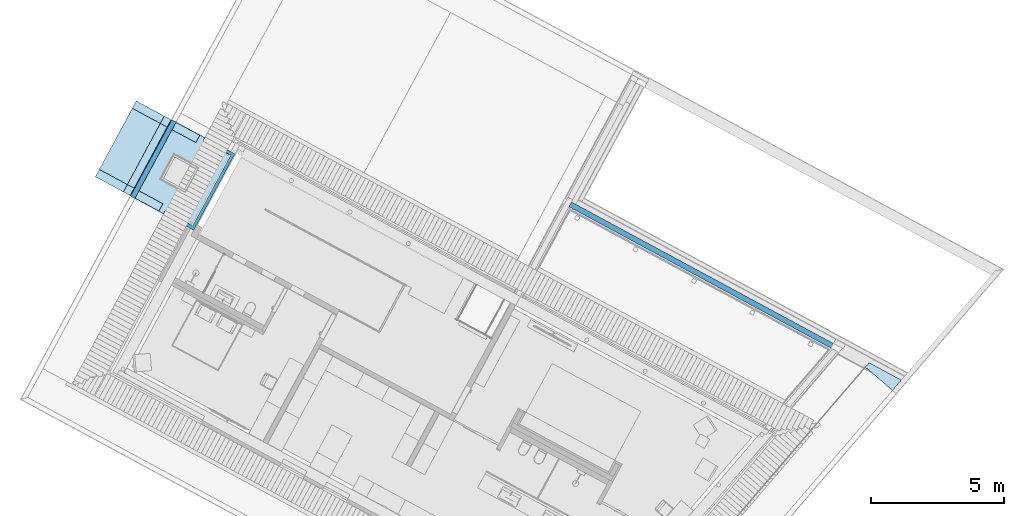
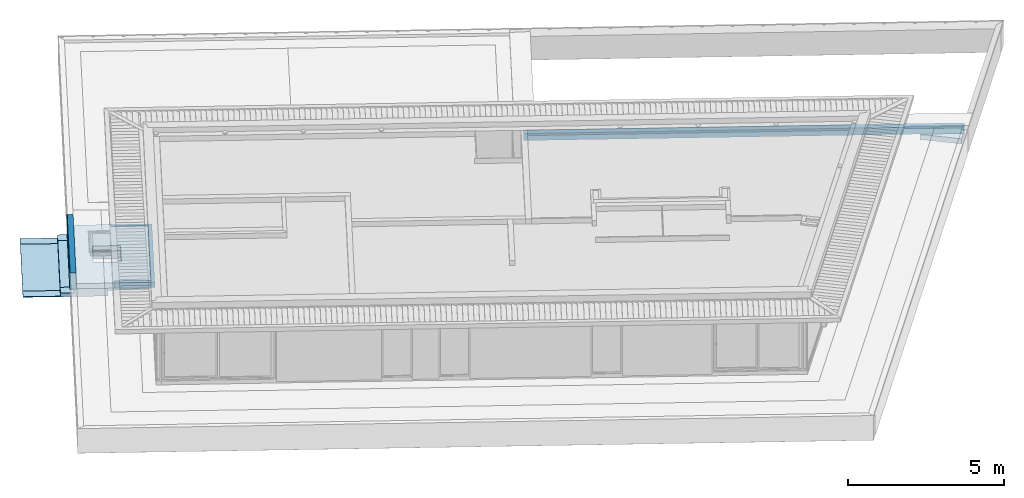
# One storey, part 3 of 48: 8 slabs.
"""IFC2X3 building model written with IfcOpenShell, lengths in metres."""

from ifc_helpers import new_model, entity, si_unit, converted_unit, derived_unit, money_unit, direction, frame, origin_with_axes, place, context, subcontext, project, spatial, faceted_brep, material, material_list, type_object, element, save


model = new_model("IFC2X3")

# Units and contexts
model_context = context("Model", 3, precision=1e-05, world=origin_with_axes(), true_north=direction((0.0, 1.0)))
body_context = subcontext(model_context, "Body", "Model", "MODEL_VIEW")
ifc_project = project(units=[si_unit("LENGTHUNIT", "METRE"), si_unit("AREAUNIT", "SQUARE_METRE"), si_unit("VOLUMEUNIT", "CUBIC_METRE"), converted_unit("PLANEANGLEUNIT", "DEGREE", entity("IfcPlaneAngleMeasure", 0.0174532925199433), si_unit("PLANEANGLEUNIT", "RADIAN"), dimensions=[0, 0, 0, 0, 0, 0, 0]), money_unit("EUR"), converted_unit("TIMEUNIT", "Year", entity("IfcTimeMeasure", 31556926.0), si_unit("TIMEUNIT", "SECOND"), dimensions=[0, 0, 1, 0, 0, 0, 0]), si_unit("MASSUNIT", "GRAM", prefix="KILO"), si_unit("THERMODYNAMICTEMPERATUREUNIT", "DEGREE_CELSIUS"), si_unit("LUMINOUSINTENSITYUNIT", "LUMEN"), si_unit("ENERGYUNIT", "JOULE", prefix="MEGA"), derived_unit("THERMALCONDUCTANCEUNIT", [(si_unit("POWERUNIT", "WATT"), 1), (si_unit("LENGTHUNIT", "METRE"), -1), (si_unit("THERMODYNAMICTEMPERATUREUNIT", "KELVIN"), -1)]), derived_unit("SPECIFICHEATCAPACITYUNIT", [(si_unit("ENERGYUNIT", "JOULE"), 1), (si_unit("MASSUNIT", "GRAM", prefix="KILO"), -1), (si_unit("THERMODYNAMICTEMPERATUREUNIT", "KELVIN"), -1)]), derived_unit("MASSDENSITYUNIT", [(si_unit("MASSUNIT", "GRAM", prefix="KILO"), 1), (si_unit("VOLUMEUNIT", "CUBIC_METRE"), -1)])], contexts=[model_context])

# Site, building, storey
site_placement = place(None, frame((-3.949935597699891, 1.740105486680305, 0.0), z_axis=(0.0, 0.0, 1.0), x_axis=(0.8799804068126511, -0.475009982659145, 0.0)))
site = spatial("IfcSite", under=ifc_project, at=site_placement, Name="Gelände", CompositionType="ELEMENT")
building_placement = place(site_placement, origin_with_axes())
building = spatial("IfcBuilding", under=site, at=building_placement, Name="Gebäude", CompositionType="ELEMENT")
storey_placement = place(building_placement, frame((0.0, 0.0, 4.55), z_axis=(0.0, 0.0, 1.0), x_axis=(1.0, 0.0, 0.0)))
storey = spatial("IfcBuildingStorey", under=building, at=storey_placement, Name="Staffelgeschoss", CompositionType="ELEMENT", Elevation=4.55)

# Slabs
ifc_material_1 = material(Name="_SIWH - Beton, Stahlbeton")
slab_type_1 = type_object("IfcSlabType", Name="_SIWH - Beton, Stahlbeton 200", PredefinedType="NOTDEFINED")
slab_1_placement = place(storey_placement, frame((17.36747696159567, 14.88304610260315, -0.3999999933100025), z_axis=(0.0, 0.0, 1.0), x_axis=(0.9999999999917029, -4.073605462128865e-06, 0.0)))
element("IfcSlab", 1, at=slab_1_placement, inside=storey, type_object=slab_type_1, material=ifc_material_1, Name="Wand-026", PredefinedType="NOTDEFINED", context=body_context, shape_type="Brep", body=[
    faceted_brep([(14.07253143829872, 0.0, 0.2749999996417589), (14.11621227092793, 0.2000000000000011, 0.2749999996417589), (-8.147210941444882e-07, 0.1999999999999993, 0.2749999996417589), (0.0, 0.0, 0.2749999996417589), (11.22181562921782, 0.0, 0.2749999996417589), (11.22182561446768, 4.571329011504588e-05, 0.2749999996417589), (11.2832870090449, 4.596365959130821e-05, 0.2749999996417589), (11.28327697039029, 0.0, 0.2749999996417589), (11.48799144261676, 0.0, 0.2749999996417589), (11.48800166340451, 4.679758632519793e-05, 0.2749999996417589), (11.53647099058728, 4.699503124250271e-05, 0.2749999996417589), (11.53647099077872, 0.0, 0.2749999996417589), (14.1162122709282, 0.2000000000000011, 0.0), (14.07253143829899, 0.0, 0.0), (-8.147210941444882e-07, 0.1999999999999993, 0.0), (0.0, 0.0, 0.0), (11.22181562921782, 0.0, 0.0), (11.22182561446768, 4.571329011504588e-05, 0.0), (11.2832870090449, 4.596365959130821e-05, 0.0), (11.28327697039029, 0.0, 0.0), (11.48799144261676, 0.0, 0.0), (11.48800166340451, 4.679758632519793e-05, 0.0), (11.53647099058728, 4.699503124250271e-05, 0.0), (11.53647099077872, 0.0, 0.0)], [[[0, 1, 2, 3, 4, 5, 6, 7, 8, 9, 10, 11]], [[12, 1, 0, 13]], [[1, 12, 14, 2]], [[3, 2, 14, 15]], [[3, 15, 16, 4]], [[16, 17, 5, 4]], [[17, 18, 6, 5]], [[18, 19, 7, 6]], [[7, 19, 20, 8]], [[20, 21, 9, 8]], [[21, 22, 10, 9]], [[22, 23, 11, 10]], [[13, 0, 11, 23]], [[12, 13, 23, 22, 21, 20, 19, 18, 17, 16, 15, 14]]]),
])
slab_2_placement = place(storey_placement, frame((2.837485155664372, 7.393058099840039, -0.4500000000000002), z_axis=(0.0, 0.0, 1.0), x_axis=(1.0, 0.0, 0.0)))
element("IfcSlab", 2, at=slab_2_placement, inside=storey, type_object=slab_type_1, material=ifc_material_1, Name="Decke020", PredefinedType="NOTDEFINED", context=body_context, shape_type="Brep", body=[
    faceted_brep([(1.224999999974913, 0.1199761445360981, -0.2000000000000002), (1.224999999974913, 0.0, -0.2000000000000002), (0.0, 0.0, -0.2000000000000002), (4.762797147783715e-06, 3.264741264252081, -0.2000000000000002), (1.225004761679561, 3.264741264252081, -0.2000000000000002), (1.225004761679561, 3.144741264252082, -0.2000000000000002), (2.399997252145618, 3.144741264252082, -0.2000000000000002), (2.399997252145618, 0.1199761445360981, -0.2000000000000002), (0.5850047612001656, 1.182359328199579, -0.2000000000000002), (1.485004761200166, 1.182359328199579, -0.2000000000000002), (1.485004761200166, 2.082359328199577, -0.2000000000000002), (0.5850047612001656, 2.082359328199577, -0.2000000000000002), (1.224999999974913, 0.1199761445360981, 0.0), (1.224999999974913, 0.0, 0.0), (0.0, 0.0, 0.0), (4.762797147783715e-06, 3.264741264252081, 0.0), (1.225004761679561, 3.264741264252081, 0.0), (1.225004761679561, 3.144741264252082, 0.0), (2.399997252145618, 3.144741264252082, 0.0), (2.399997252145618, 0.1199761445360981, 0.0), (0.5850047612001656, 1.182359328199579, 0.0), (1.485004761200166, 1.182359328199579, 0.0), (1.485004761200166, 2.082359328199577, 0.0), (0.5850047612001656, 2.082359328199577, 0.0)], [[[0, 1, 2, 3, 4, 5, 6, 7], [8, 9, 10, 11]], [[12, 13, 1, 0]], [[13, 14, 2, 1]], [[14, 15, 3, 2]], [[15, 16, 4, 3]], [[16, 17, 5, 4]], [[17, 18, 6, 5]], [[18, 19, 7, 6]], [[19, 12, 0, 7]], [[20, 21, 9, 8]], [[21, 22, 10, 9]], [[22, 23, 11, 10]], [[23, 20, 8, 11]], [[16, 15, 14, 13, 12, 19, 18, 17], [20, 23, 22, 21]]]),
])
slab_3_placement = place(storey_placement, frame((30.1069965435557, 15.08304610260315, -0.3999999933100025), z_axis=(0.0, 0.0, 1.0), x_axis=(1.0, 0.0, 0.0)))
element("IfcSlab", 3, at=slab_3_placement, inside=storey, type_object=slab_type_1, material=ifc_material_1, Name="Decke-004", PredefinedType="NOTDEFINED", context=body_context, shape_type="Brep", body=[
    faceted_brep([(-0.05241793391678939, -0.2399998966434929, -0.2000000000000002), (-0.05241793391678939, -0.2399998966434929, 0.0), (0.0, 0.0, 0.0), (0.0, 0.0, -0.2000000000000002), (0.07041087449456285, -0.2399998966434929, -0.2000000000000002), (0.07041087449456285, -0.2399998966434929, 0.0), (1.267198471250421, -0.5013886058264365, 0.0), (1.376706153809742, 0.0, 0.0), (1.376706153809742, 0.0, -0.2000000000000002), (1.267198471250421, -0.5013886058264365, -0.2000000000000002)], [[[0, 1, 2, 3]], [[4, 5, 1, 0]], [[5, 6, 7, 2, 1]], [[3, 2, 7, 8]], [[9, 4, 0, 3, 8]], [[9, 6, 5, 4]], [[8, 7, 6, 9]]]),
])
ifc_material_2 = material(Name="_SIWH - Abgehängte Decke Arkade")
ifc_material_3 = material(Name="_SIWH - Holz, Bauholz")
ifc_material_4 = material(Name="_SIWH - Luftschicht vertikal")
ifc_material_5 = material(Name="_SIWH - Dämmung, weich Mineralwolle")
ifc_material_list_1 = material_list([ifc_material_2, ifc_material_3, ifc_material_2, ifc_material_2, ifc_material_4, ifc_material_5, ifc_material_3, ifc_material_4])
slab_type_2 = type_object("IfcSlabType", Name="_SIWH - Vordach Eingang 2 2720 x 310", PredefinedType="NOTDEFINED")
slab_4_placement = place(storey_placement, frame((2.637489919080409, 7.403034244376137, -0.6499999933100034), z_axis=(0.0, 0.0, 1.0), x_axis=(0.0, 1.0, 0.0)))
element("IfcSlab", 4, at=slab_4_placement, inside=storey, type_object=slab_type_2, material=ifc_material_list_1, Name="Wand-024", PredefinedType="NOTDEFINED", context=body_context, shape_type="Brep", body=[
    faceted_brep([(0.3149999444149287, 0.3000000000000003, -0.2849999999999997), (0.3149999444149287, 0.2750000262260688, -0.2849999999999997), (0.0, 0.2750000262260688, -0.2849999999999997), (0.0, 0.3000000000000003, -0.2849999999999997), (0.3149999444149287, 0.3000000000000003, -0.1599999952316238), (0.3149999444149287, -0.1350000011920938, -0.1599999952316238), (0.3149999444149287, -1.22, -0.1599999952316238), (0.3149999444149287, -1.22, -0.1849999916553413), (0.3149999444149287, 0.2750000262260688, -0.1849999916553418), (0.0, 0.2750000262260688, -0.1849999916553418), (0.0, -1.22, -0.1849999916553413), (0.0, -1.22, -0.1599999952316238), (0.0, -0.1350000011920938, -0.1599999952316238), (0.0, 0.3000000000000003, -0.1599999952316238)], [[[0, 1, 2, 3]], [[0, 4, 5, 6, 7, 8, 1]], [[1, 8, 9, 2]], [[3, 2, 9, 10, 11, 12, 13]], [[4, 0, 3, 13]], [[5, 4, 13, 12]], [[6, 5, 12, 11]], [[7, 6, 11, 10]], [[8, 7, 10, 9]]]),
    faceted_brep([(0.3149999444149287, 0.1750000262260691, -0.185000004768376), (0.3149999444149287, 0.275000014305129, -0.185000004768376), (0.0, 0.275000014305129, -0.185000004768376), (0.0, 0.1750000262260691, -0.185000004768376), (0.3149999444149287, 0.1750000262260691, -0.2849999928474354), (0.3149999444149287, 0.275000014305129, -0.2849999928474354), (0.0, 0.275000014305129, -0.2849999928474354), (0.0, 0.1750000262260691, -0.2849999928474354)], [[[0, 1, 2, 3]], [[0, 4, 5, 1]], [[1, 5, 6, 2]], [[3, 2, 6, 7]], [[4, 0, 3, 7]], [[5, 4, 7, 6]]]),
    faceted_brep([(0.3149999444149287, 1.5, -0.3100000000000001), (0.3149999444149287, -1.22, -0.3099999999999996), (0.0, -1.22, -0.3099999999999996), (0.0, 1.5, -0.3100000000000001), (0.3149999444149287, 1.5, -0.2849999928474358), (0.3149999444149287, 0.2999999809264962, -0.2849999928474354), (0.3149999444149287, -1.22, -0.2849999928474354), (0.0, -1.22, -0.2849999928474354), (0.0, 0.2999999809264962, -0.2849999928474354), (0.0, 1.5, -0.2849999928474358)], [[[0, 1, 2, 3]], [[0, 4, 5, 6, 1]], [[1, 6, 7, 2]], [[3, 2, 7, 8, 9]], [[4, 0, 3, 9]], [[5, 4, 9, 8]], [[6, 5, 8, 7]]]),
    faceted_brep([(0.3149999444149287, 0.0, 0.0), (0.3149999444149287, 0.0, -0.02499999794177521), (0.0, 0.0, -0.02499999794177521), (0.0, 0.0, 0.0), (0.3149999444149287, -0.1599999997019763, 0.0), (0.3149999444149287, -0.1599999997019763, -0.1600000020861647), (0.3149999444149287, -0.1349999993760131, -0.1600000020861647), (0.3149999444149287, -0.1349999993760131, -0.02499999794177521), (0.0, -0.1349999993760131, -0.02499999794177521), (0.0, -0.1349999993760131, -0.1600000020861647), (0.0, -0.1599999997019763, -0.1600000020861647), (0.0, -0.1599999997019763, 0.0)], [[[0, 1, 2, 3]], [[0, 4, 5, 6, 7, 1]], [[1, 7, 8, 2]], [[3, 2, 8, 9, 10, 11]], [[4, 0, 3, 11]], [[5, 4, 11, 10]], [[6, 5, 10, 9]], [[7, 6, 9, 8]]]),
    faceted_brep([(0.3149999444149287, -0.6849999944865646, -0.1850000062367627), (0.3149999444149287, 0.1750000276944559, -0.1850000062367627), (0.0, 0.1750000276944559, -0.1850000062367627), (0.0, -0.6849999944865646, -0.1850000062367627), (0.3149999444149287, -0.6849999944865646, -0.2849999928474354), (0.3149999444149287, 0.1750000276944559, -0.2849999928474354), (0.0, 0.1750000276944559, -0.2849999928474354), (0.0, -0.6849999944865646, -0.2849999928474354)], [[[0, 1, 2, 3]], [[0, 4, 5, 1]], [[1, 5, 6, 2]], [[3, 2, 6, 7]], [[4, 0, 3, 7]], [[5, 4, 7, 6]]]),
    faceted_brep([(0.3149999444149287, -0.1599999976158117, -0.1599999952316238), (0.3149999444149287, -1.22, -0.1599999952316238), (0.0, -1.22, -0.1599999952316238), (0.0, -0.1599999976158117, -0.1599999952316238), (0.3149999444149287, -0.1599999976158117, 0.0), (0.3149999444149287, -1.22, 0.0), (0.0, -1.22, 0.0), (0.0, -0.1599999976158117, 0.0)], [[[0, 1, 2, 3]], [[0, 4, 5, 1]], [[1, 5, 6, 2]], [[3, 2, 6, 7]], [[4, 0, 3, 7]], [[5, 4, 7, 6]]]),
    faceted_brep([(0.3149999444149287, -0.6849999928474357, -0.2849999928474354), (0.3149999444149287, -0.7849999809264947, -0.2849999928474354), (0.0, -0.7849999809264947, -0.2849999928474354), (0.0, -0.6849999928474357, -0.2849999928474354), (0.3149999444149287, -0.6849999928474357, -0.185000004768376), (0.3149999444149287, -0.7849999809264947, -0.185000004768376), (0.0, -0.7849999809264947, -0.185000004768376), (0.0, -0.6849999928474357, -0.185000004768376)], [[[0, 1, 2, 3]], [[0, 4, 5, 1]], [[1, 5, 6, 2]], [[3, 2, 6, 7]], [[4, 0, 3, 7]], [[5, 4, 7, 6]]]),
    faceted_brep([(0.3149999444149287, -0.7849999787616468, -0.2849999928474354), (0.3149999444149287, -1.22, -0.2849999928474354), (0.0, -1.22, -0.2849999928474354), (0.0, -0.7849999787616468, -0.2849999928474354), (0.3149999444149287, -0.7849999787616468, -0.1850000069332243), (0.3149999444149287, -1.22, -0.1850000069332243), (0.0, -1.22, -0.1850000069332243), (0.0, -0.7849999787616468, -0.1850000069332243)], [[[0, 1, 2, 3]], [[0, 4, 5, 1]], [[1, 5, 6, 2]], [[3, 2, 6, 7]], [[4, 0, 3, 7]], [[5, 4, 7, 6]]]),
])
slab_5_placement = place(storey_placement, frame((2.637489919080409, 10.33280025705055, -0.6499999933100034), z_axis=(0.0, 0.0, 1.0), x_axis=(0.0, 1.0, 0.0)))
element("IfcSlab", 5, at=slab_5_placement, inside=storey, type_object=slab_type_2, material=ifc_material_list_1, Name="Wand-024", PredefinedType="NOTDEFINED", context=body_context, shape_type="Brep", body=[
    faceted_brep([(0.3149999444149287, 0.3000000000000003, -0.2849999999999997), (0.3149999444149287, 0.2750000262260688, -0.2849999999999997), (0.0, 0.2750000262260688, -0.2849999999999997), (0.0, 0.3000000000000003, -0.2849999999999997), (0.3149999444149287, 0.3000000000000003, -0.1599999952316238), (0.3149999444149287, -0.1350000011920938, -0.1599999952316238), (0.3149999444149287, -1.22, -0.1599999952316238), (0.3149999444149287, -1.22, -0.1849999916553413), (0.3149999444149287, 0.2750000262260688, -0.1849999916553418), (0.0, 0.2750000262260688, -0.1849999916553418), (0.0, -1.22, -0.1849999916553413), (0.0, -1.22, -0.1599999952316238), (0.0, -0.1350000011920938, -0.1599999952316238), (0.0, 0.3000000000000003, -0.1599999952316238)], [[[0, 1, 2, 3]], [[0, 4, 5, 6, 7, 8, 1]], [[1, 8, 9, 2]], [[3, 2, 9, 10, 11, 12, 13]], [[4, 0, 3, 13]], [[5, 4, 13, 12]], [[6, 5, 12, 11]], [[7, 6, 11, 10]], [[8, 7, 10, 9]]]),
    faceted_brep([(0.3149999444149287, 0.1750000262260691, -0.185000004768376), (0.3149999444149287, 0.275000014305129, -0.185000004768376), (0.0, 0.275000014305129, -0.185000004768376), (0.0, 0.1750000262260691, -0.185000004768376), (0.3149999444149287, 0.1750000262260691, -0.2849999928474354), (0.3149999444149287, 0.275000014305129, -0.2849999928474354), (0.0, 0.275000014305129, -0.2849999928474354), (0.0, 0.1750000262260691, -0.2849999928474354)], [[[0, 1, 2, 3]], [[0, 4, 5, 1]], [[1, 5, 6, 2]], [[3, 2, 6, 7]], [[4, 0, 3, 7]], [[5, 4, 7, 6]]]),
    faceted_brep([(0.3149999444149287, 1.5, -0.3100000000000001), (0.3149999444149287, -1.22, -0.3099999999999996), (0.0, -1.22, -0.3099999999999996), (0.0, 1.5, -0.3100000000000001), (0.3149999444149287, 1.5, -0.2849999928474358), (0.3149999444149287, 0.2999999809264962, -0.2849999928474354), (0.3149999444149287, -1.22, -0.2849999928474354), (0.0, -1.22, -0.2849999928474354), (0.0, 0.2999999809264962, -0.2849999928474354), (0.0, 1.5, -0.2849999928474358)], [[[0, 1, 2, 3]], [[0, 4, 5, 6, 1]], [[1, 6, 7, 2]], [[3, 2, 7, 8, 9]], [[4, 0, 3, 9]], [[5, 4, 9, 8]], [[6, 5, 8, 7]]]),
    faceted_brep([(0.3149999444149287, 0.0, 0.0), (0.3149999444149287, 0.0, -0.02499999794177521), (0.0, 0.0, -0.02499999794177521), (0.0, 0.0, 0.0), (0.3149999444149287, -0.1599999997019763, 0.0), (0.3149999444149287, -0.1599999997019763, -0.1600000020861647), (0.3149999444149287, -0.1349999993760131, -0.1600000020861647), (0.3149999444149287, -0.1349999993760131, -0.02499999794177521), (0.0, -0.1349999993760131, -0.02499999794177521), (0.0, -0.1349999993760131, -0.1600000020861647), (0.0, -0.1599999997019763, -0.1600000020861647), (0.0, -0.1599999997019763, 0.0)], [[[0, 1, 2, 3]], [[0, 4, 5, 6, 7, 1]], [[1, 7, 8, 2]], [[3, 2, 8, 9, 10, 11]], [[4, 0, 3, 11]], [[5, 4, 11, 10]], [[6, 5, 10, 9]], [[7, 6, 9, 8]]]),
    faceted_brep([(0.3149999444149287, -0.6849999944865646, -0.1850000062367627), (0.3149999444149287, 0.1750000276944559, -0.1850000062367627), (0.0, 0.1750000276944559, -0.1850000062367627), (0.0, -0.6849999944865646, -0.1850000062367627), (0.3149999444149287, -0.6849999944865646, -0.2849999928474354), (0.3149999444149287, 0.1750000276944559, -0.2849999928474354), (0.0, 0.1750000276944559, -0.2849999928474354), (0.0, -0.6849999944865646, -0.2849999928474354)], [[[0, 1, 2, 3]], [[0, 4, 5, 1]], [[1, 5, 6, 2]], [[3, 2, 6, 7]], [[4, 0, 3, 7]], [[5, 4, 7, 6]]]),
    faceted_brep([(0.3149999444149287, -0.1599999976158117, -0.1599999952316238), (0.3149999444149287, -1.22, -0.1599999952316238), (0.0, -1.22, -0.1599999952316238), (0.0, -0.1599999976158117, -0.1599999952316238), (0.3149999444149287, -0.1599999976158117, 0.0), (0.3149999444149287, -1.22, 0.0), (0.0, -1.22, 0.0), (0.0, -0.1599999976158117, 0.0)], [[[0, 1, 2, 3]], [[0, 4, 5, 1]], [[1, 5, 6, 2]], [[3, 2, 6, 7]], [[4, 0, 3, 7]], [[5, 4, 7, 6]]]),
    faceted_brep([(0.3149999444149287, -0.6849999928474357, -0.2849999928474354), (0.3149999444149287, -0.7849999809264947, -0.2849999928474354), (0.0, -0.7849999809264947, -0.2849999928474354), (0.0, -0.6849999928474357, -0.2849999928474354), (0.3149999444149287, -0.6849999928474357, -0.185000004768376), (0.3149999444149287, -0.7849999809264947, -0.185000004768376), (0.0, -0.7849999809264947, -0.185000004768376), (0.0, -0.6849999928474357, -0.185000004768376)], [[[0, 1, 2, 3]], [[0, 4, 5, 1]], [[1, 5, 6, 2]], [[3, 2, 6, 7]], [[4, 0, 3, 7]], [[5, 4, 7, 6]]]),
    faceted_brep([(0.3149999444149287, -0.7849999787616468, -0.2849999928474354), (0.3149999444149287, -1.22, -0.2849999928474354), (0.0, -1.22, -0.2849999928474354), (0.0, -0.7849999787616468, -0.2849999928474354), (0.3149999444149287, -0.7849999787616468, -0.1850000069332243), (0.3149999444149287, -1.22, -0.1850000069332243), (0.0, -1.22, -0.1850000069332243), (0.0, -0.7849999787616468, -0.1850000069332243)], [[[0, 1, 2, 3]], [[0, 4, 5, 1]], [[1, 5, 6, 2]], [[3, 2, 6, 7]], [[4, 0, 3, 7]], [[5, 4, 7, 6]]]),
])
slab_type_3 = type_object("IfcSlabType", Name="_SIWH - Dämmung, weich Mineralwolle 200", PredefinedType="NOTDEFINED")
slab_6_placement = place(storey_placement, frame((4.062489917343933, 10.53779936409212, -0.4500000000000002), z_axis=(0.0, 0.0, 1.0), x_axis=(1.0, 0.0, 0.0)))
element("IfcSlab", 6, at=slab_6_placement, inside=storey, type_object=slab_type_3, material=ifc_material_5, Name="Decke021", PredefinedType="NOTDEFINED", context=body_context, shape_type="Brep", body=[
    faceted_brep([(1.174992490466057, 0.0, 0.0), (0.0, 0.0, 0.0), (0.0, 0.0, -0.2000000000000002), (1.174992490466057, 0.0, -0.2000000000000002), (1.294992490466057, 0.1199999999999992, 0.0), (0.0, 0.1199999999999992, 0.0), (1.174992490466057, -3.024765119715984, 0.0), (-4.761704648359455e-06, -3.024765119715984, 0.0), (-4.761704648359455e-06, -3.144741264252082, 0.0), (1.294992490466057, -3.144765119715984, 0.0), (0.0, 0.1199999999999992, -0.2000000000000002), (1.174992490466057, -3.024765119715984, -0.2000000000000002), (1.294992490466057, 0.1199999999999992, -0.2000000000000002), (1.294992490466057, -3.144765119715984, -0.2000000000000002), (-4.761704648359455e-06, -3.144741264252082, -0.2000000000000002), (-4.761704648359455e-06, -3.024765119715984, -0.2000000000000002)], [[[0, 1, 2, 3]], [[4, 5, 1, 0, 6, 7, 8, 9]], [[1, 5, 10, 2]], [[11, 3, 2, 10, 12, 13, 14, 15]], [[6, 0, 3, 11]], [[5, 4, 12, 10]], [[7, 6, 11, 15]], [[8, 7, 15, 14]], [[9, 8, 14, 13]], [[4, 9, 13, 12]]]),
])
ifc_material_6 = material(Name="_SIWH - Metall, Aluminium")
ifc_material_7 = material(Name="_SIWH - Beton, Stahlbeton Fertigteil")
ifc_material_list_2 = material_list([ifc_material_6, ifc_material_7])
slab_type_4 = type_object("IfcSlabType", Name="_SIWH - Vordach+Arkade2 nur Luftbalken 210 x 650", PredefinedType="NOTDEFINED")
slab_7_placement = place(storey_placement, frame((4.182489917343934, 7.393058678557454, -0.3999999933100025), z_axis=(0.0, 0.0, 1.0), x_axis=(0.0, 1.0, 0.0)))
element("IfcSlab", 7, at=slab_7_placement, inside=storey, type_object=slab_type_4, material=ifc_material_list_2, Name="Wand-024", PredefinedType="NOTDEFINED", context=body_context, shape_type="Brep", body=[
    faceted_brep([(3.264740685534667, 1.53313506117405, 0.3764030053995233), (3.264740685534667, 1.555000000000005, 0.3999999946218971), (0.0, 1.555000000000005, 0.3999999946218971), (0.0, 1.53313506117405, 0.3764030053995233), (3.264740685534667, 1.493152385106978, 0.3744038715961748), (3.264740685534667, 1.493252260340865, 0.372406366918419), (3.264740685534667, 1.534048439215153, 0.3744461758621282), (3.264740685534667, 1.553000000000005, 0.3948980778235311), (3.264740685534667, 1.553000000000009, 0.3449999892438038), (3.264740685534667, 1.555000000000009, 0.3449999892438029), (0.0, 1.555000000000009, 0.3449999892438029), (0.0, 1.553000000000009, 0.3449999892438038), (0.0, 1.553000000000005, 0.3948980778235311), (0.0, 1.534048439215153, 0.3744461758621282), (0.0, 1.493252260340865, 0.372406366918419), (0.0, 1.493152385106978, 0.3744038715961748)], [[[0, 1, 2, 3]], [[0, 4, 5, 6, 7, 8, 9, 1]], [[1, 9, 10, 2]], [[3, 2, 10, 11, 12, 13, 14, 15]], [[4, 0, 3, 15]], [[5, 4, 15, 14]], [[6, 5, 14, 13]], [[7, 6, 13, 12]], [[8, 7, 12, 11]], [[9, 8, 11, 10]]]),
    faceted_brep([(3.264740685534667, 1.544999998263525, 0.3699875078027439), (3.264740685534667, 1.544999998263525, -0.2399999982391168), (0.0, 1.544999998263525, -0.2399999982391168), (0.0, 1.544999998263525, 0.3699875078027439), (3.264740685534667, 1.345, 0.3599875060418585), (3.264740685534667, 1.345, -0.2399999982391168), (3.264740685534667, 1.355000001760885, -0.2500000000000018), (3.264740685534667, 1.479999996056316, -0.2500000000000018), (3.264740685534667, 1.494999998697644, -0.2349999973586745), (3.264740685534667, 1.51000000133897, -0.2500000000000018), (3.264740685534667, 1.53499999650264, -0.2500000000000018), (0.0, 1.53499999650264, -0.2500000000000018), (0.0, 1.51000000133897, -0.2500000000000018), (0.0, 1.494999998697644, -0.2349999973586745), (0.0, 1.479999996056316, -0.2500000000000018), (0.0, 1.355000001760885, -0.2500000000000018), (0.0, 1.345, -0.2399999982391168), (0.0, 1.345, 0.3599875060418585)], [[[0, 1, 2, 3]], [[0, 4, 5, 6, 7, 8, 9, 10, 1]], [[1, 10, 11, 2]], [[3, 2, 11, 12, 13, 14, 15, 16, 17]], [[4, 0, 3, 17]], [[5, 4, 17, 16]], [[6, 5, 16, 15]], [[7, 6, 15, 14]], [[8, 7, 14, 13]], [[9, 8, 13, 12]], [[10, 9, 12, 11]]]),
])
ifc_material_list_3 = material_list([ifc_material_3, ifc_material_2, ifc_material_4, ifc_material_2, ifc_material_3, ifc_material_2, ifc_material_4, ifc_material_5, ifc_material_3, ifc_material_4, ifc_material_3])
slab_type_5 = type_object("IfcSlabType", Name="_SIWH - Vordach Eingang 1 4035 x 310", PredefinedType="NOTDEFINED")
slab_8_placement = place(storey_placement, frame((2.637489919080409, 7.718034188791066, -0.6499999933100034), z_axis=(0.0, 0.0, 1.0), x_axis=(0.0, 1.0, 0.0)))
element("IfcSlab", 8, at=slab_8_placement, inside=storey, type_object=slab_type_5, material=ifc_material_list_3, Name="Wand-024", PredefinedType="NOTDEFINED", context=body_context, shape_type="Brep", body=[
    faceted_brep([(2.614766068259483, 0.1750000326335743, -0.1849999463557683), (2.614766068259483, 0.2750000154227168, -0.1849999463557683), (0.0, 0.2750000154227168, -0.1849999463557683), (0.0, 0.1750000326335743, -0.1849999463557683), (2.614766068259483, 0.1750000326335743, -0.2849999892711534), (2.614766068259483, 0.2750000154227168, -0.2849999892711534), (0.0, 0.2750000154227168, -0.2849999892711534), (0.0, 0.1750000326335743, -0.2849999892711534)], [[[0, 1, 2, 3]], [[0, 4, 5, 1]], [[1, 5, 6, 2]], [[3, 2, 6, 7]], [[4, 0, 3, 7]], [[5, 4, 7, 6]]]),
    faceted_brep([(2.614766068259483, 0.0, 0.0), (2.614766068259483, 0.0, -0.02499999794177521), (0.0, 0.0, -0.02499999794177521), (0.0, 0.0, 0.0), (2.614766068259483, -0.1599999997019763, 0.0), (2.614766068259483, -0.1599999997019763, -0.1600000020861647), (2.614766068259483, -0.1349999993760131, -0.1600000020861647), (2.614766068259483, -0.1349999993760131, -0.02499999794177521), (0.0, -0.1349999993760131, -0.02499999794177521), (0.0, -0.1349999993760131, -0.1600000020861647), (0.0, -0.1599999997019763, -0.1600000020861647), (0.0, -0.1599999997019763, 0.0)], [[[0, 1, 2, 3]], [[0, 4, 5, 6, 7, 1]], [[1, 7, 8, 2]], [[3, 2, 8, 9, 10, 11]], [[4, 0, 3, 11]], [[5, 4, 11, 10]], [[6, 5, 10, 9]], [[7, 6, 9, 8]]]),
    faceted_brep([(2.614766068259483, -0.6849999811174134, -0.1849999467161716), (2.614766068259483, 0.1750000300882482, -0.1849999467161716), (0.0, 0.1750000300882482, -0.1849999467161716), (0.0, -0.6849999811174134, -0.1849999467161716), (2.614766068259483, -0.6849999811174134, -0.2849999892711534), (2.614766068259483, 0.1750000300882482, -0.2849999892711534), (0.0, 0.1750000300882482, -0.2849999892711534), (0.0, -0.6849999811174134, -0.2849999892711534)], [[[0, 1, 2, 3]], [[0, 4, 5, 1]], [[1, 5, 6, 2]], [[3, 2, 6, 7]], [[4, 0, 3, 7]], [[5, 4, 7, 6]]]),
    faceted_brep([(0.0, 1.5, -0.3100000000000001), (2.614766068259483, 1.5, -0.3100000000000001), (2.614766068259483, -2.535, -0.3099999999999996), (0.0, -2.535, -0.3099999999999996), (0.8573832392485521, -0.7849999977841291, -0.3100000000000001), (0.8573832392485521, -1.684999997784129, -0.3099999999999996), (1.757383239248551, -1.684999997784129, -0.3099999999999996), (1.757383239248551, -0.7849999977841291, -0.3100000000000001), (0.0, 1.5, -0.2849999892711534), (2.614766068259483, 1.5, -0.2849999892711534), (2.614766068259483, 0.300000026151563, -0.2849999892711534), (2.614766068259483, -2.535, -0.2849999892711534), (0.0, -2.535, -0.2849999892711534), (0.0, 0.300000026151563, -0.2849999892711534), (0.8573832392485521, -0.7849999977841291, -0.2849999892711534), (0.8573832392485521, -1.684999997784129, -0.2849999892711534), (1.757383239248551, -1.684999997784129, -0.2849999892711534), (1.757383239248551, -0.7849999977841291, -0.2849999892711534)], [[[0, 1, 2, 3], [4, 5, 6, 7]], [[8, 9, 1, 0]], [[2, 1, 9, 10, 11]], [[3, 2, 11, 12]], [[8, 0, 3, 12, 13]], [[14, 15, 5, 4]], [[15, 16, 6, 5]], [[16, 17, 7, 6]], [[17, 14, 4, 7]], [[13, 10, 9, 8]], [[12, 11, 10, 13], [14, 17, 16, 15]]]),
    faceted_brep([(0.0, -0.6849999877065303, -0.1849999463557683), (2.614766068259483, -0.6849999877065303, -0.1849999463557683), (2.614766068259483, -0.6849999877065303, -0.2849999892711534), (0.0, -0.6849999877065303, -0.2849999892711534), (0.0, -0.7850000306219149, -0.1849999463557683), (2.614766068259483, -0.7850000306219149, -0.1849999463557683), (2.614766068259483, -0.7850000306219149, -0.2849999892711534), (0.0, -0.7850000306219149, -0.2849999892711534)], [[[0, 1, 2, 3]], [[4, 5, 1, 0]], [[2, 1, 5, 6]], [[3, 2, 6, 7]], [[4, 0, 3, 7]], [[7, 6, 5, 4]]]),
    faceted_brep([(0.0, 0.2750000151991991, -0.1849999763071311), (2.614766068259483, 0.2750000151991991, -0.1849999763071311), (2.614766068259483, -2.510000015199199, -0.1849999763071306), (0.0, -2.510000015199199, -0.1849999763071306), (0.8573832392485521, -0.7849999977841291, -0.1849999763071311), (0.8573832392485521, -1.684999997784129, -0.1849999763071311), (1.757383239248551, -1.684999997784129, -0.1849999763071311), (1.757383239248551, -0.7849999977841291, -0.1849999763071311), (0.0, 0.2750000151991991, -0.2849999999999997), (2.614766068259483, 0.2750000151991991, -0.2849999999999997), (2.614766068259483, 0.3000000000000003, -0.2849999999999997), (2.614766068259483, 0.3000000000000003, -0.1599999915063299), (2.614766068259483, -0.1349999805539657, -0.1599999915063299), (2.614766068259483, -2.535, -0.1599999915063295), (2.614766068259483, -2.535, -0.2849999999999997), (2.614766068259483, -2.510000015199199, -0.2849999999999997), (0.0, -2.510000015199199, -0.2849999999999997), (0.0, -0.1349999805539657, -0.1599999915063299), (0.0, 0.3000000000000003, -0.1599999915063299), (0.0, 0.3000000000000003, -0.2849999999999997), (0.0, -2.535, -0.2849999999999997), (0.0, -2.535, -0.1599999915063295), (0.8573832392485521, -0.7849999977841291, -0.1599999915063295), (0.8573832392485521, -1.684999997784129, -0.1599999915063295), (1.757383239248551, -1.684999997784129, -0.1599999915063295), (1.757383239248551, -0.7849999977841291, -0.1599999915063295)], [[[0, 1, 2, 3], [4, 5, 6, 7]], [[8, 9, 1, 0]], [[10, 11, 12, 13, 14, 15, 2, 1, 9]], [[3, 2, 15, 16]], [[17, 18, 19, 8, 0, 3, 16, 20, 21]], [[22, 23, 5, 4]], [[23, 24, 6, 5]], [[24, 25, 7, 6]], [[25, 22, 4, 7]], [[19, 10, 9, 8]], [[18, 11, 10, 19]], [[17, 12, 11, 18]], [[21, 13, 12, 17], [22, 25, 24, 23]], [[20, 14, 13, 21]], [[16, 15, 14, 20]]]),
    faceted_brep([(0.8573832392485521, -1.684999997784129, -0.2849999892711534), (0.8573832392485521, -1.684999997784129, -0.1849999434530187), (0.0, -1.684999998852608, -0.1849999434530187), (0.0, -1.684999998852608, -0.2849999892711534), (0.8573832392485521, -0.7849999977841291, -0.1849999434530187), (0.8573832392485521, -0.7849999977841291, -0.2849999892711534), (0.0, -0.7850000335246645, -0.1849999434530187), (0.0, -0.7850000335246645, -0.2849999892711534)], [[[0, 1, 2, 3]], [[4, 1, 0, 5]], [[1, 4, 6, 2]], [[2, 6, 7, 3]], [[5, 0, 3, 7]], [[4, 5, 7, 6]]]),
    faceted_brep([(1.757383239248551, -0.7849999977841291, -0.1849999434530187), (1.757383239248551, -1.684999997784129, -0.1849999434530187), (2.614766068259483, -1.684999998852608, -0.1849999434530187), (2.614766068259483, -0.7850000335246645, -0.1849999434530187), (1.757383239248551, -1.684999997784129, -0.284999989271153), (1.757383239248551, -0.7849999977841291, -0.2849999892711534), (2.614766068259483, -1.684999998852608, -0.2849999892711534), (2.614766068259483, -0.7850000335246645, -0.2849999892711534)], [[[0, 1, 2, 3]], [[4, 1, 0, 5]], [[1, 4, 6, 2]], [[7, 3, 2, 6]], [[5, 0, 3, 7]], [[4, 5, 7, 6]]]),
    faceted_brep([(0.0, -0.1600000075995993, -0.1599999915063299), (2.614766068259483, -0.1600000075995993, -0.1599999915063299), (2.614766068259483, -2.535, -0.1599999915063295), (0.0, -2.535, -0.1599999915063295), (0.8573832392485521, -0.7849999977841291, -0.1599999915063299), (0.8573832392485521, -1.684999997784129, -0.1599999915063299), (1.757383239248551, -1.684999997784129, -0.1599999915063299), (1.757383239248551, -0.7849999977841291, -0.1599999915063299), (0.0, -0.1600000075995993, -1.27405046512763e-08), (2.614766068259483, -0.1600000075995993, -1.27405046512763e-08), (2.614766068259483, -2.535, -1.27405046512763e-08), (0.0, -2.535, -1.27405046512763e-08), (0.8573832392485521, -0.7849999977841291, -1.27405046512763e-08), (0.8573832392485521, -1.684999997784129, -1.27405046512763e-08), (1.757383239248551, -1.684999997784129, -1.27405046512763e-08), (1.757383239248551, -0.7849999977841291, -1.27405046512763e-08)], [[[0, 1, 2, 3], [4, 5, 6, 7]], [[8, 9, 1, 0]], [[9, 10, 2, 1]], [[3, 2, 10, 11]], [[3, 11, 8, 0]], [[12, 13, 5, 4]], [[13, 14, 6, 5]], [[14, 15, 7, 6]], [[15, 12, 4, 7]], [[11, 10, 9, 8], [12, 15, 14, 13]]]),
    faceted_brep([(0.0, -1.684999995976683, -0.1849999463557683), (2.614766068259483, -1.684999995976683, -0.1849999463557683), (2.614766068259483, -1.684999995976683, -0.2849999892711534), (0.0, -1.684999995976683, -0.2849999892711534), (0.0, -1.784999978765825, -0.1849999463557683), (2.614766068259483, -1.784999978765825, -0.1849999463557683), (2.614766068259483, -1.784999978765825, -0.2849999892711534), (0.0, -1.784999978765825, -0.2849999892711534)], [[[0, 1, 2, 3]], [[4, 5, 1, 0]], [[2, 1, 5, 6]], [[3, 2, 6, 7]], [[4, 0, 3, 7]], [[7, 6, 5, 4]]]),
    faceted_brep([(2.614766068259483, -1.784999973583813, -0.1849999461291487), (2.614766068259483, -1.784999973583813, -0.2849999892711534), (0.0, -1.784999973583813, -0.2849999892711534), (0.0, -1.784999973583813, -0.1849999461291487), (2.614766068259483, -2.410000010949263, -0.1849999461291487), (2.614766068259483, -2.410000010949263, -0.2849999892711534), (0.0, -2.410000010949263, -0.2849999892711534), (0.0, -2.410000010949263, -0.1849999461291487)], [[[0, 1, 2, 3]], [[0, 4, 5, 1]], [[1, 5, 6, 2]], [[3, 2, 6, 7]], [[4, 0, 3, 7]], [[5, 4, 7, 6]]]),
    faceted_brep([(2.614766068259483, -2.509999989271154, -0.1849999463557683), (2.614766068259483, -2.410000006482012, -0.1849999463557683), (0.0, -2.410000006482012, -0.1849999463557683), (0.0, -2.509999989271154, -0.1849999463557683), (2.614766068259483, -2.509999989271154, -0.2849999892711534), (2.614766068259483, -2.410000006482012, -0.2849999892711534), (0.0, -2.410000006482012, -0.2849999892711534), (0.0, -2.509999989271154, -0.2849999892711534)], [[[0, 1, 2, 3]], [[0, 4, 5, 1]], [[1, 5, 6, 2]], [[3, 2, 6, 7]], [[4, 0, 3, 7]], [[5, 4, 7, 6]]]),
])

save(model, "model.ifc")
